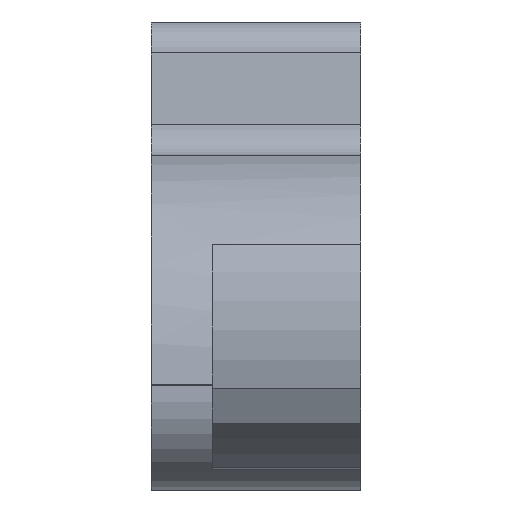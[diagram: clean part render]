
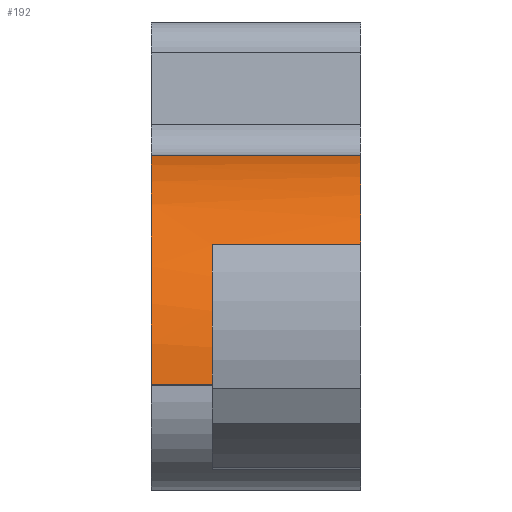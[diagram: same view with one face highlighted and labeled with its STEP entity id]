
A CAD part, top view. The second image highlights one B-rep face of the part: STEP entity #192.
In plain terms, the highlighted cylindrical face has radius 13.8 mm (diameter 27.6 mm), a partial arc.
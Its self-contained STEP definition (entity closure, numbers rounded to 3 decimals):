
#192=ADVANCED_FACE('',(#699),#701,.T.);
#699=FACE_BOUND('',#700,.T.);
#700=EDGE_LOOP('',(#1148,#1149,#1150,#1151,#1152,#1153));
#701=CYLINDRICAL_SURFACE('',#702,13.8);
#702=AXIS2_PLACEMENT_3D('',#703,#704,#705);
#703=CARTESIAN_POINT('',(-6.,0.,0.));
#704=DIRECTION('',(1.,0.,0.));
#705=DIRECTION('',(0.,0.989,0.147));
#1148=ORIENTED_EDGE('',*,*,#1348,.T.);
#1149=ORIENTED_EDGE('',*,*,#1423,.F.);
#1150=ORIENTED_EDGE('',*,*,#1424,.F.);
#1151=ORIENTED_EDGE('',*,*,#1425,.T.);
#1152=ORIENTED_EDGE('',*,*,#1336,.F.);
#1153=ORIENTED_EDGE('',*,*,#1422,.F.);
#1336=EDGE_CURVE('',#1493,#1495,#1496,.T.);
#1348=EDGE_CURVE('',#1518,#1519,#1520,.T.);
#1422=EDGE_CURVE('',#1518,#1493,#1649,.T.);
#1423=EDGE_CURVE('',#1650,#1519,#1651,.T.);
#1424=EDGE_CURVE('',#1652,#1650,#1653,.T.);
#1425=EDGE_CURVE('',#1652,#1495,#1654,.T.);
#1493=VERTEX_POINT('',#1760);
#1495=VERTEX_POINT('',#1765);
#1496=CIRCLE('',#1766,13.8);
#1518=VERTEX_POINT('',#1819);
#1519=VERTEX_POINT('',#1820);
#1520=CIRCLE('',#1821,13.8);
#1649=LINE('',#2135,#2136);
#1650=VERTEX_POINT('',#2138);
#1651=LINE('',#2139,#2140);
#1652=VERTEX_POINT('',#2142);
#1653=CIRCLE('',#2143,13.8);
#1654=LINE('',#2147,#2148);
#1760=CARTESIAN_POINT('',(6.,13.649,2.034));
#1765=CARTESIAN_POINT('',(6.,8.5,10.872));
#1766=AXIS2_PLACEMENT_3D('',#1767,#1768,#1769);
#1767=CARTESIAN_POINT('',(6.,0.,0.));
#1768=DIRECTION('',(1.,0.,0.));
#1769=DIRECTION('',(0.,0.989,0.147));
#1819=CARTESIAN_POINT('',(-6.,13.649,2.034));
#1820=CARTESIAN_POINT('',(-6.,0.5,13.791));
#1821=AXIS2_PLACEMENT_3D('',#1822,#1823,#1824);
#1822=CARTESIAN_POINT('',(-6.,0.,0.));
#1823=DIRECTION('',(1.,0.,0.));
#1824=DIRECTION('',(0.,0.989,0.147));
#2135=CARTESIAN_POINT('',(-6.,13.649,2.034));
#2136=VECTOR('',#2137,1.);
#2137=DIRECTION('',(1.,0.,0.));
#2138=CARTESIAN_POINT('',(-2.5,0.5,13.791));
#2139=CARTESIAN_POINT('',(-2.5,0.5,13.791));
#2140=VECTOR('',#2141,1.);
#2141=DIRECTION('',(-1.,0.,0.));
#2142=CARTESIAN_POINT('',(-2.5,8.5,10.872));
#2143=AXIS2_PLACEMENT_3D('',#2144,#2145,#2146);
#2144=CARTESIAN_POINT('',(-2.5,0.,0.));
#2145=DIRECTION('',(1.,0.,0.));
#2146=DIRECTION('',(0.,0.616,0.788));
#2147=CARTESIAN_POINT('',(-2.5,8.5,10.872));
#2148=VECTOR('',#2149,1.);
#2149=DIRECTION('',(1.,0.,0.));
